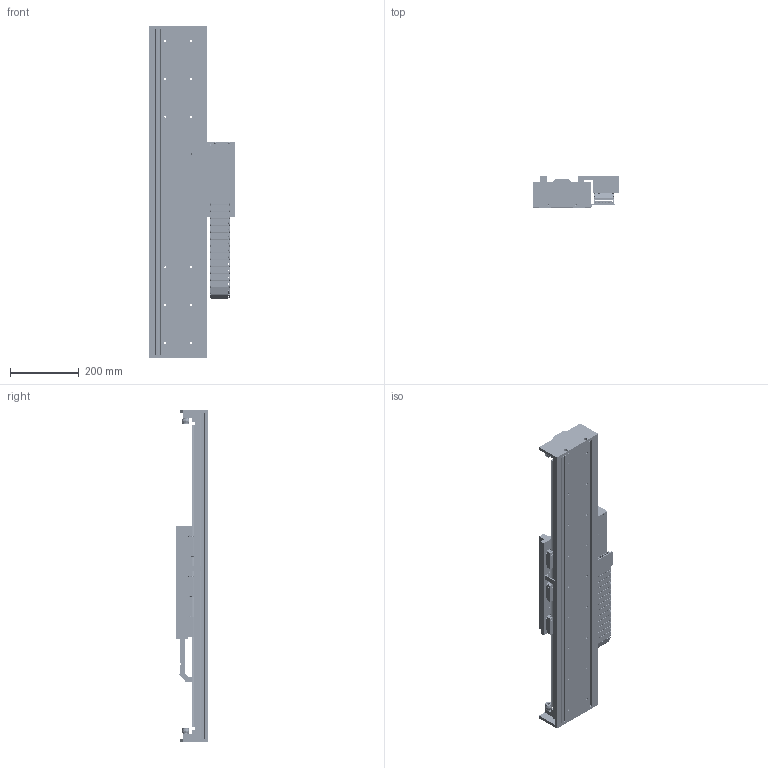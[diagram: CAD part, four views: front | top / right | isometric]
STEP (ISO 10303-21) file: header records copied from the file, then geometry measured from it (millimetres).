
FILE_DESCRIPTION (( 'STEP AP203' ), '1' );
FILE_NAME ('STF35230D-xC1B-Axx.STEP', '2007-07-02T21:02:43', ( 'Yaskawa' ), ( 'Yaskawa' ), 'SwSTEP 2.0', 'SolidWorks 2007', '' );
FILE_SCHEMA (( 'CONFIG_CONTROL_DESIGN' ));
Products named in the file (60): STCM-007 Lower E-Chain Bracket; 07.50.028.0_123; 07.50.028.0_98; 07.50.028.0_102; RGH22B; STF2035-002B-R1 F35-230 Carriage Horn; STF2035-004 Flag; 07.50.028.0_100; 07.50.028.0_101; Mult-SR15+580LY_005; B18.3.1M - 6 x 1.0 x 16 Hex SHCS -- 16NHX_B18.3.1M - 6 x 1.0 x 16 Hex SHCS -- 16NHX; 07.50.028.0_99; STF20120E; STCM-001-R2 Cable Bracket; SSR15W Block; STF2035-005-R2 Cable Router; 07.50.028.0_103; STCM-R1; 07.50.028.0_108; STCM-005-R1 Cable Assembly Cover; STF35BM Base_STF35120-005; STF35230 Complete Carriage; STCM-004 Cable Assembly Side; 07.50.028.0_97; STF35230D-xC1B-Axx; STCM-002-R2 Cable Assembly Front; STF2035-007 End Stop; Serial Converter; Bumper-Medium; 07.50.028.0_104; 07.50.028.0_109; STCM-006-R1 Upper E-chain Bracket; 07.50.028.0_96; STF2035-001D F35-230 Carriage; SGLFM-35324AC; 07.50.028.0_110; 07.50.028.0_107; 07.50.028.0_106; 07.50.028.0_112; 07.50.028.0_113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
Assembly tree (80 placements, depth 4):
  STF35230D-xC1B-Axx
    STF2035-006 Endplate  x2
    STF35230 Complete Carriage
      STF2035-002B-R1 F35-230 Carriage Horn  x2
      STF2035-003 Renishaw Encoder Mount
      SSR15W Block  x6
      STF2035-001D F35-230 Carriage
      SGLFW-35A230AP
      STF2035-004 Flag
      STF2035-005-R2 Cable Router
      RGH22B
      STCM-R1
        STCM-001-R2 Cable Bracket
        B18.3.4M - 3 x 0.5 x 12 SBHCS --N_B18.3.4M - 3 x 0.5 x 12 SBHCS --N  x4
        B18.3.5M - 3 x 0.5 x 6 Socket FCHS  -- 6N_B18.3.5M - 3 x 0.5 x 6 Socket FCHS  -- 6N  x6
        STCM-005-R1 Cable Assembly Cover
        STCM-002-R2 Cable Assembly Front
        Serial Converter
        STCM-004 Cable Assembly Side
        STCM-006-R1 Upper E-chain Bracket
        STCM-003 Cable Assembly Bottom
    STF20120E
      07.50.028.0_101
      07.50.028.0_104
      07.50.028.0_112
      07.50.028.0_111  x2
      07.50.028.0_107
      07.50.028.0_103
      07.50.028.0_105  x2
      07.50.028.0_102
      07.50.028.0_120
      07.50.028.0_106
      07.50.028.0_96
      07.50.028.0_114
      07.50.028.0_116
      07.50.028.0_118
      07.50.028.0_109
      07.50.028.0_122
      07.50.028.0_115
      07.50.028.0_97
      07.50.028.0_98
      07.50.028.0_99
      07.50.028.0_117
      07.50.028.0_100
      07.50.028.0_110
      07.50.028.0_119
      07.50.028.0_113
      07.50.028.0_121
      07.50.028.0_108
      07.50.028.0_123
    STF35BM Base_STF35120-005
      End Stop with Bumper  x4
        STF2035-007 End Stop
        B18.3.1M - 6 x 1.0 x 16 Hex SHCS -- 16NHX_B18.3.1M - 6 x 1.0 x 16 Hex SHCS -- 16NHX
        Bumper-Medium
      Mult-SR15+580LY_005  x2
      SGLFM-35324AC
      SGLFM-35540AC-2
      STF35120 Base_STF35BM-005
    STCM-007 Lower E-Chain Bracket
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Bounding box: 251.03 x 94.7 x 969.05 mm (x, y, z)
Volume: 5885239.1 mm3; surface area: 1620994.6 mm2
Topology: 109 solids, 109 shells, 6097 faces, 15709 edges, 9979 vertices
Faces by surface type: plane 3120, cylinder 2383, cone 492, bspline 62, torus 32, sphere 8
Entity records: 136670 total; most frequent: DIRECTION 23006, CARTESIAN_POINT 22739, ORIENTED_EDGE 21480, EDGE_CURVE 10740, AXIS2_PLACEMENT_3D 8001, VERTEX_POINT 7033, VECTOR 7004, LINE 7004
